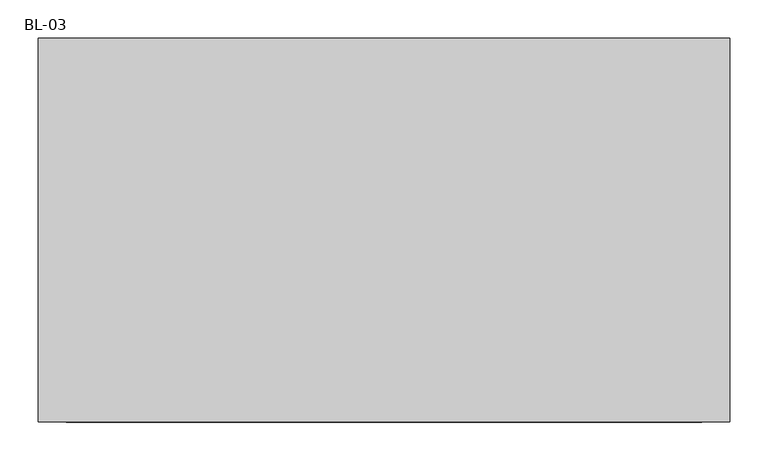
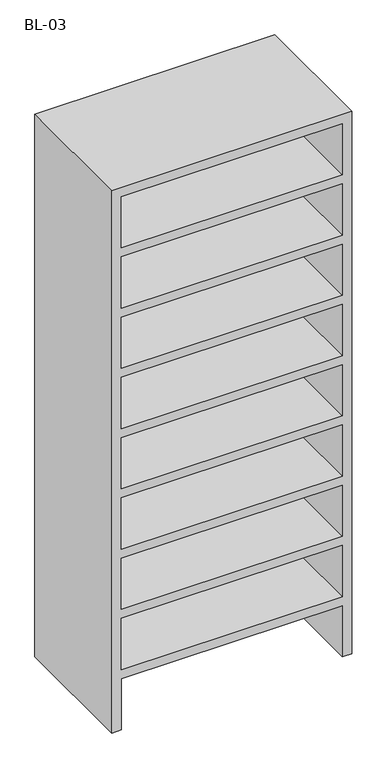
"""IFC4 building model written with IfcOpenShell, lengths in millimetres: furniture geometry, 8 ESTANTES-BLANCOS : BL-03."""

from ifc_helpers import new_model, si_unit, frame, origin, place, context, project, spatial, polyline, outline, extrude, source, transform, mapped, element, save


def bl_03_da6bd976(model_context):
    return source(origin(), model_context, "Body", "SweptSolid", [
        extrude(outline(polyline([(0.0, -636.0697951), (0.0, -600.0697951), (202.8888889, -600.0697951), (202.8888889, 227.9302049), (0.0, 227.9302049), (0.0, 263.9302049), (2150.0, 263.9302049), (2150.0, -636.0697951), (0.0, -636.0697951)]), holes=[polyline([(1397.3333333, 227.9302049), (1194.4444444, 227.9302049), (1194.4444444, -600.0697951), (1397.3333333, -600.0697951), (1397.3333333, 227.9302049)]), polyline([(716.6666667, -600.0697951), (919.5555556, -600.0697951), (919.5555556, 227.9302049), (716.6666667, 227.9302049), (716.6666667, -600.0697951)]), polyline([(477.7777778, -600.0697951), (680.6666667, -600.0697951), (680.6666667, 227.9302049), (477.7777778, 227.9302049), (477.7777778, -600.0697951)]), polyline([(238.8888889, -600.0697951), (441.7777778, -600.0697951), (441.7777778, 227.9302049), (238.8888889, 227.9302049), (238.8888889, -600.0697951)]), polyline([(955.5555556, 227.9302049), (955.5555556, -600.0697951), (1158.4444444, -600.0697951), (1158.4444444, 227.9302049), (955.5555556, 227.9302049)]), polyline([(1911.1111111, -600.0697951), (2114.0, -600.0697951), (2114.0, 227.9302049), (1911.1111111, 227.9302049), (1911.1111111, -600.0697951)]), polyline([(1433.3333333, 227.9302049), (1433.3333333, -600.0697951), (1636.2222222, -600.0697951), (1636.2222222, 227.9302049), (1433.3333333, 227.9302049)]), polyline([(1875.1111111, -600.0697951), (1875.1111111, 227.9302049), (1672.2222222, 227.9302049), (1672.2222222, -600.0697951), (1875.1111111, -600.0697951)])]), frame((0.0, 100.0, 0.0), z_axis=(0.0, 1.0, 0.0), x_axis=(0.0, 0.0, 1.0)), (0.0, 0.0, 1.0), 500.0),
    ])


if __name__ == "__main__":
    model = new_model("IFC4")
    model_context = context("Model", 3, world=origin())
    ifc_project = project(units=[si_unit("LENGTHUNIT", "METRE", prefix="MILLI")], contexts=[model_context])
    site = spatial("IfcSite", under=ifc_project)
    building = spatial("IfcBuilding", under=site)
    placement = place(None, origin())
    bl_03_shape = bl_03_da6bd976(model_context)
    element("IfcFurniture", 1, ObjectType="8 ESTANTES-BLANCOS : BL-03", at=placement, inside=building, context=model_context, shape_type="MappedRepresentation", body=[
        mapped(bl_03_shape, transform((0.0, 0.0, 0.0), x_axis=(1.0, 0.0, 0.0), y_axis=(0.0, 1.0, 0.0), z_axis=(0.0, 0.0, 1.0))),
    ])
    save(model, "model.ifc")
